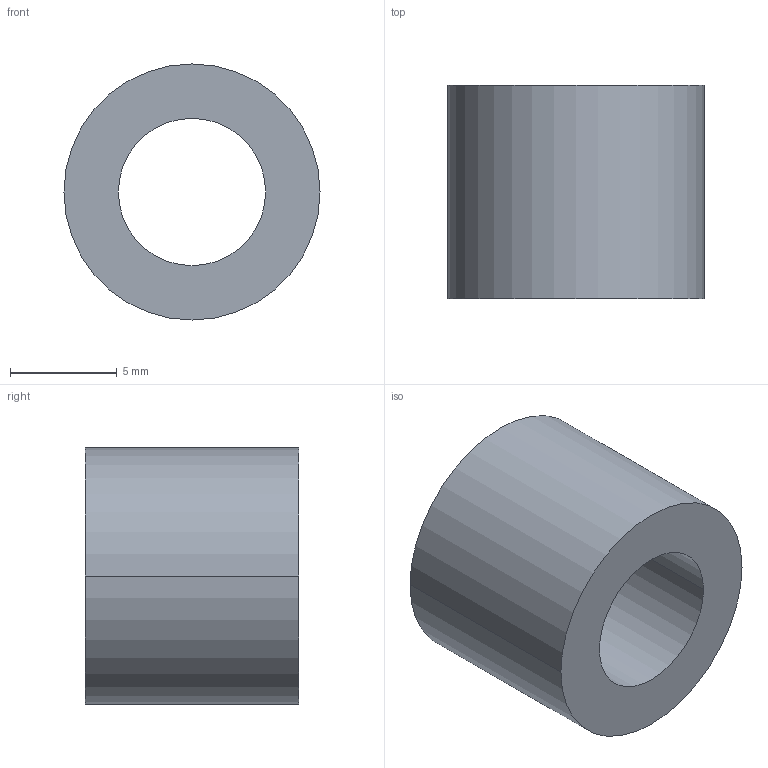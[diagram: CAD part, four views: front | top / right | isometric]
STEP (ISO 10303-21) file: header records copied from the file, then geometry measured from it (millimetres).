
FILE_DESCRIPTION (( 'STEP AP203' ), '1' );
FILE_NAME ('30800.WPP12D6.9.step', '2019-01-23T22:26:27', ( '' ), ( '' ), 'SwSTEP 2.0', 'SolidWorks 2017', '' );
FILE_SCHEMA (( 'CONFIG_CONTROL_DESIGN' ));
Length unit declared in the file: millimetre
Products named in the file (1): 30800.WPP12D6.9
Bounding box: 12 x 10 x 12 mm (x, y, z)
Volume: 745.6 mm3; surface area: 732.2 mm2
Topology: 1 solids, 1 shells, 8 faces, 16 edges, 10 vertices
Faces by surface type: cylinder 4, torus 2, plane 2
Entity records: 297 total; most frequent: DIRECTION 46, CARTESIAN_POINT 35, ORIENTED_EDGE 32, AXIS2_PLACEMENT_3D 21, EDGE_CURVE 16, CIRCLE 12, EDGE_LOOP 10, VERTEX_POINT 10
